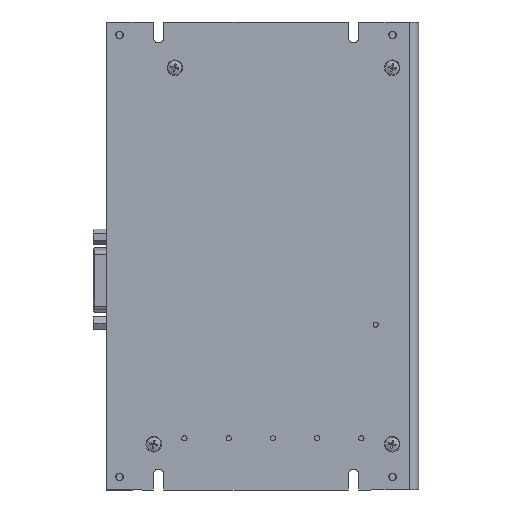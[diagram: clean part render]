
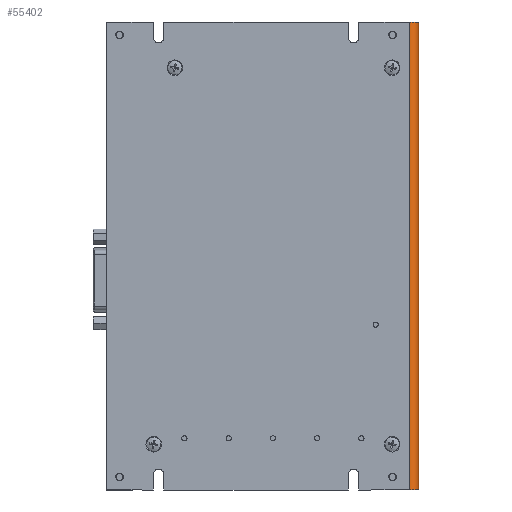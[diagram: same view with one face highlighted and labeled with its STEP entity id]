
A CAD part, front view. The second image highlights one B-rep face of the part: STEP entity #55402.
In plain terms, the highlighted cylindrical face has radius 3.6 mm (diameter 7.2 mm), a partial arc.
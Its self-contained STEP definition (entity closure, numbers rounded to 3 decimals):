
#3059 = CARTESIAN_POINT ( 'NONE',  ( 0., 3.6, 90. ) ) ;
#3098 = CARTESIAN_POINT ( 'NONE',  ( 0., 3.6, -90. ) ) ;
#3169 = CARTESIAN_POINT ( 'NONE',  ( -3.6, 0., 90. ) ) ;
#3185 = CARTESIAN_POINT ( 'NONE',  ( -3.6, 0., -90. ) ) ;
#14747 = VECTOR ( 'NONE', #47860, 1000. ) ;
#14748 = LINE ( 'NONE', #47848, #14747 ) ;
#15095 = VECTOR ( 'NONE', #47477, 1000. ) ;
#15100 = LINE ( 'NONE', #47457, #15095 ) ;
#15108 = CIRCLE ( 'NONE', #68151, 3.6 ) ;
#15110 = CIRCLE ( 'NONE', #68149, 3.6 ) ;
#16416 = CYLINDRICAL_SURFACE ( 'NONE', #68025, 3.6 ) ;
#16420 = FACE_OUTER_BOUND ( 'NONE', #18841, .T. ) ;
#18841 = EDGE_LOOP ( 'NONE', ( #34212, #34213, #34217, #34219 ) ) ;
#30053 = DIRECTION ( 'NONE',  ( -1., 0., 0. ) ) ;
#30056 = DIRECTION ( 'NONE',  ( 0., 0., -1. ) ) ;
#30057 = CARTESIAN_POINT ( 'NONE',  ( -3.6, 3.6, 324.578 ) ) ;
#34212 = ORIENTED_EDGE ( 'NONE', *, *, #57498, .T. ) ;
#34213 = ORIENTED_EDGE ( 'NONE', *, *, #57506, .T. ) ;
#34217 = ORIENTED_EDGE ( 'NONE', *, *, #57500, .T. ) ;
#34219 = ORIENTED_EDGE ( 'NONE', *, *, #57675, .F. ) ;
#47454 = CARTESIAN_POINT ( 'NONE',  ( -3.6, 3.6, 90. ) ) ;
#47455 = DIRECTION ( 'NONE',  ( 0., 0., -1. ) ) ;
#47456 = DIRECTION ( 'NONE',  ( -1., 0., 0. ) ) ;
#47457 = CARTESIAN_POINT ( 'NONE',  ( -3.6, 0., 90. ) ) ;
#47462 = CARTESIAN_POINT ( 'NONE',  ( -3.6, 3.6, -90. ) ) ;
#47463 = DIRECTION ( 'NONE',  ( 0., 0., 1. ) ) ;
#47464 = DIRECTION ( 'NONE',  ( -1., 0., 0. ) ) ;
#47477 = DIRECTION ( 'NONE',  ( 0., 0., -1. ) ) ;
#47848 = CARTESIAN_POINT ( 'NONE',  ( 0., 3.6, 90. ) ) ;
#47860 = DIRECTION ( 'NONE',  ( 0., 0., -1. ) ) ;
#55402 = ADVANCED_FACE ( 'NONE', ( #16420 ), #16416, .T. ) ;
#57498 = EDGE_CURVE ( 'NONE', #65769, #65865, #15110, .T. ) ;
#57500 = EDGE_CURVE ( 'NONE', #65869, #65803, #15108, .T. ) ;
#57506 = EDGE_CURVE ( 'NONE', #65865, #65869, #15100, .T. ) ;
#57675 = EDGE_CURVE ( 'NONE', #65769, #65803, #14748, .T. ) ;
#65769 = VERTEX_POINT ( 'NONE', #3059 ) ;
#65803 = VERTEX_POINT ( 'NONE', #3098 ) ;
#65865 = VERTEX_POINT ( 'NONE', #3169 ) ;
#65869 = VERTEX_POINT ( 'NONE', #3185 ) ;
#68025 = AXIS2_PLACEMENT_3D ( 'NONE', #30057, #30056, #30053 ) ;
#68149 = AXIS2_PLACEMENT_3D ( 'NONE', #47454, #47455, #47456 ) ;
#68151 = AXIS2_PLACEMENT_3D ( 'NONE', #47462, #47463, #47464 ) ;
